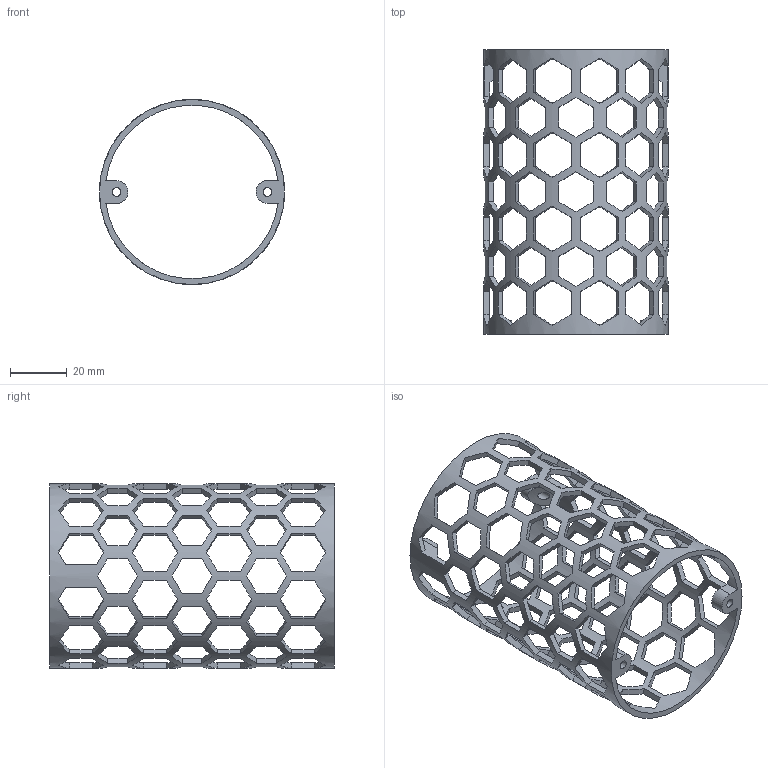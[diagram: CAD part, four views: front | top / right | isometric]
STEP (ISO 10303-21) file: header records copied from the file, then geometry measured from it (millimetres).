
FILE_DESCRIPTION(/* description */ (''),/* implementation_level */ '2;1');
FILE_NAME(/* name */ 'G:\Unidades compartidas\PROYECTO PANAMA\Archivos para pagina web\Cansat_Estandar\STEP\Case_Cansat Estandar.stp',/* time_stamp */ '2022-06-07T17:43:36-05:00',/* author */ ('pined'),/* organization */ (''),/* preprocessor_version */ 'ST-DEVELOPER v18.1',/* originating_system */ 'Autodesk Inventor 2022',/* authorisation */ '');
FILE_SCHEMA (('AUTOMOTIVE_DESIGN { 1 0 10303 214 3 1 1 }'));
Length unit declared in the file: millimetre
Products named in the file (1): Case_Cansat Estandar
Bounding box: 65 x 100 x 65 mm (x, y, z)
Volume: 15632 mm3; surface area: 23958.2 mm2
Topology: 1 solids, 1 shells, 552 faces, 1660 edges, 1104 vertices
Faces by surface type: plane 540, cylinder 10, cone 2
Full cylindrical faces by diameter (mm): 3 x4, 61 x1, 65 x1
Entity records: 20028 total; most frequent: CARTESIAN_POINT 3453, DIRECTION 3452, ORIENTED_EDGE 3320, EDGE_CURVE 1660, AXIS2_PLACEMENT_3D 1250, VERTEX_POINT 1104, LINE 952, VECTOR 952
